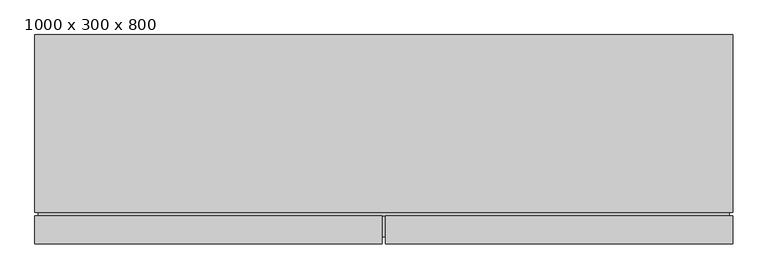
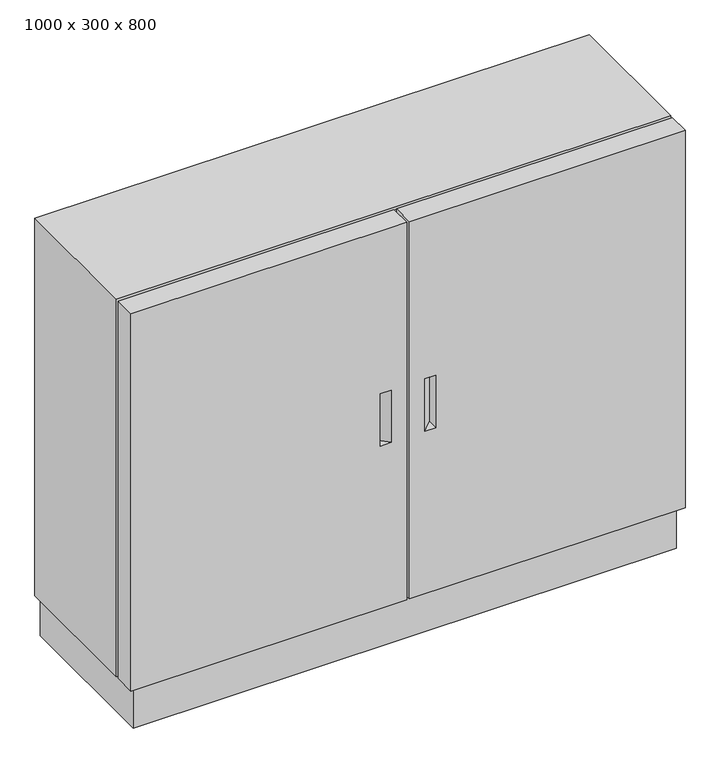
"""IFC4 building model written with IfcOpenShell, lengths in millimetres: proxy geometry, Armoire électrique : 1000 x 300 x 800."""

from ifc_helpers import new_model, si_unit, origin, origin_with_axes, place, context, project, spatial, polyline, outline, extrude, faceted_brep, source, transform, mapped, element, save


def proxy_1000_x_300_x_800_80c2998d(model_context):
    return source(origin(), model_context, "Body", "SolidModel", [
        faceted_brep([(500.0, 0.0, 800.0), (-500.0, 0.0, 800.0), (-500.0, -255.0, 800.0), (500.0, -255.0, 800.0), (-500.0, -300.0, 800.0), (-2.5, -300.0, 800.0), (-2.5, -260.0, 800.0), (-500.0, -260.0, 800.0), (2.5, -300.0, 800.0), (500.0, -300.0, 800.0), (500.0, -260.0, 800.0), (2.5, -260.0, 800.0), (-500.0, 0.0, 80.0), (500.0, 0.0, 80.0), (500.0, -255.0, 80.0), (-500.0, -255.0, 80.0), (-2.5, -300.0, 80.0), (-500.0, -300.0, 80.0), (-500.0, -260.0, 80.0), (-2.5, -260.0, 80.0), (500.0, -300.0, 80.0), (2.5, -300.0, 80.0), (2.5, -260.0, 80.0), (500.0, -260.0, 80.0), (-50.0, -300.0, 490.0), (-30.0, -300.0, 490.0), (-30.0, -300.0, 390.0), (-50.0, -300.0, 390.0), (30.0, -300.0, 490.0), (50.0, -300.0, 490.0), (50.0, -300.0, 390.0), (30.0, -300.0, 390.0), (-2.5, -260.0, 795.0), (-2.5, -260.0, 85.0), (2.5, -260.0, 85.0), (2.5, -260.0, 795.0), (495.0, -260.0, 85.0), (495.0, -260.0, 795.0), (-495.0, -260.0, 795.0), (-495.0, -260.0, 85.0), (-495.0, -255.0, 85.0), (-495.0, -255.0, 795.0), (495.0, -255.0, 795.0), (495.0, -255.0, 85.0), (-50.0, -280.0, 490.0), (50.0, -280.0, 490.0), (-50.0, -280.0, 390.0), (50.0, -280.0, 390.0)], [[[0, 1, 2, 3]], [[4, 5, 6, 7]], [[8, 9, 10, 11]], [[12, 13, 14, 15]], [[16, 17, 18, 19]], [[20, 21, 22, 23]], [[1, 0, 13, 12]], [[1, 12, 15, 2]], [[17, 4, 7, 18]], [[4, 17, 16, 5], [24, 25, 26, 27]], [[20, 9, 8, 21], [28, 29, 30, 31]], [[13, 0, 3, 14]], [[9, 20, 23, 10]], [[32, 33, 34, 35]], [[6, 5, 16, 19, 33, 32]], [[8, 11, 35, 34, 22, 21]], [[36, 37, 35, 11, 10, 23, 22, 34]], [[38, 39, 33, 19, 18, 7, 6, 32]], [[3, 2, 15, 14], [40, 41, 42, 43]], [[39, 38, 41, 40]], [[42, 41, 38, 32, 35, 37]], [[37, 36, 43, 42]], [[40, 43, 36, 34, 33, 39]], [[24, 44, 25]], [[45, 29, 28]], [[26, 46, 27]], [[47, 31, 30]], [[25, 44, 46, 26]], [[44, 24, 27, 46]], [[45, 28, 31, 47]], [[29, 45, 47, 30]]]),
        extrude(outline(polyline([(490.0, 0.0), (490.0, -290.0), (-490.0, -290.0), (-490.0, 0.0), (490.0, 0.0)])), origin_with_axes(), (0.0, 0.0, 1.0), 80.0),
    ])


if __name__ == "__main__":
    model = new_model("IFC4")
    model_context = context("Model", 3, world=origin())
    ifc_project = project(units=[si_unit("LENGTHUNIT", "METRE", prefix="MILLI")], contexts=[model_context])
    site = spatial("IfcSite", under=ifc_project)
    building = spatial("IfcBuilding", under=site)
    placement = place(None, origin())
    proxy_1000_x_300_x_800_shape = proxy_1000_x_300_x_800_80c2998d(model_context)
    element("IfcBuildingElementProxy", 1, Name="Armoire électrique : 1000 x 300 x 800", ObjectType="Armoire électrique : 1000 x 300 x 800", at=placement, inside=building, context=model_context, shape_type="MappedRepresentation", body=[
        mapped(proxy_1000_x_300_x_800_shape, transform((0.0, 0.0, 0.0), x_axis=(1.0, 0.0, 0.0), y_axis=(0.0, 1.0, 0.0), z_axis=(0.0, 0.0, 1.0))),
    ])
    save(model, "model.ifc")
